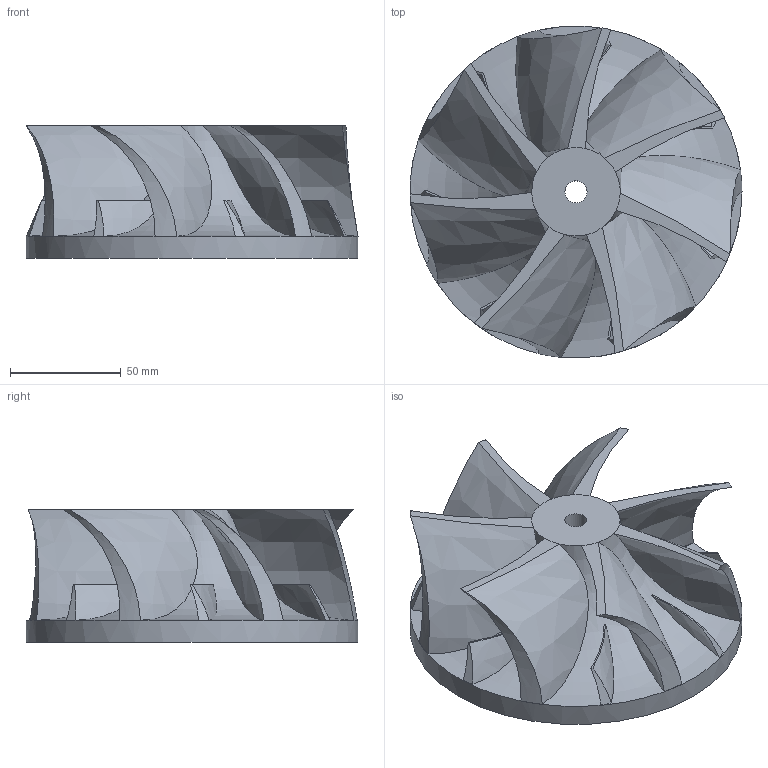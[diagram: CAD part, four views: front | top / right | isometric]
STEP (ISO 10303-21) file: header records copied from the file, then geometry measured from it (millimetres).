
FILE_DESCRIPTION(('FreeCAD Model'),'2;1');
FILE_NAME('/home/sammel/Dokumente/bbs/5A/impellar.stp', '2019-10-16T13:46:10',('Author'),(''), 'Open CASCADE STEP processor 7.3','FreeCAD','Unknown');
FILE_SCHEMA(('AUTOMOTIVE_DESIGN { 1 0 10303 214 1 1 1 1 }'));
Length unit declared in the file: millimetre
Products named in the file (1): Body
Bounding box: 150 x 150 x 60 mm (x, y, z)
Volume: 490709.5 mm3; surface area: 85589.7 mm2
Topology: 1 solids, 1 shells, 104 faces, 234 edges, 132 vertices
Faces by surface type: bspline 63, plane 30, torus 9, cylinder 2
Full cylindrical faces by diameter (mm): 10 x1, 150 x1
Entity records: 16112 total; most frequent: CARTESIAN_POINT 12204, ORIENTED_EDGE 468, PCURVE 468, DEFINITIONAL_REPRESENTATION 468, DIRECTION 436, B_SPLINE_CURVE_WITH_KNOTS 384, EDGE_CURVE 234, SURFACE_CURVE 232
